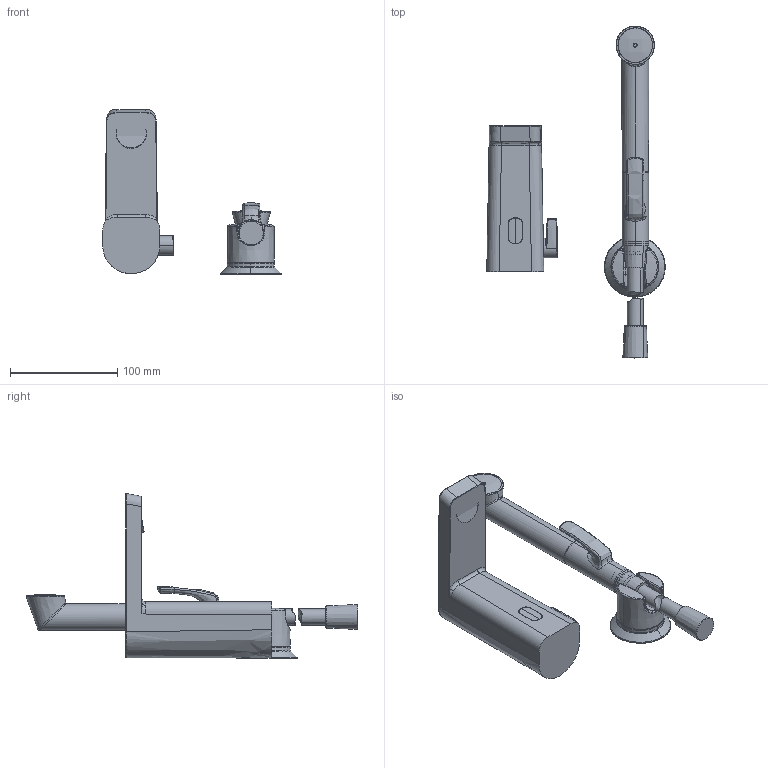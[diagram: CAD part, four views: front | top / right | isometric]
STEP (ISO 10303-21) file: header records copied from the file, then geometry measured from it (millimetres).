
FILE_DESCRIPTION (( 'STEP AP203' ), '1' );
FILE_NAME ('4826FTZ(2023).STEP', '2023-05-16T04:22:04', ( '' ), ( '' ), 'SwSTEP 2.0', 'SolidWorks 2016', '' );
FILE_SCHEMA (( 'CONFIG_CONTROL_DESIGN' ));
Length unit declared in the file: millimetre
Products named in the file (1): 4826FTZ(2023)
Bounding box: 166.51 x 309.75 x 153.93 mm (x, y, z)
Volume: 611022 mm3; surface area: 92381.4 mm2
Topology: 12 solids, 12 shells, 295 faces, 690 edges, 430 vertices
Faces by surface type: bspline 161, cylinder 47, plane 44, torus 22, cone 21
Entity records: 33019 total; most frequent: CARTESIAN_POINT 27349, ORIENTED_EDGE 1380, DIRECTION 837, EDGE_CURVE 690, VERTEX_POINT 430, AXIS2_PLACEMENT_3D 355, B_SPLINE_CURVE_WITH_KNOTS 320, EDGE_LOOP 306
